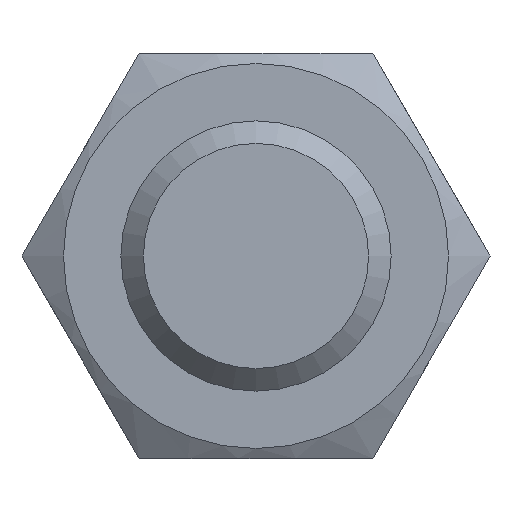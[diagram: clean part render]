
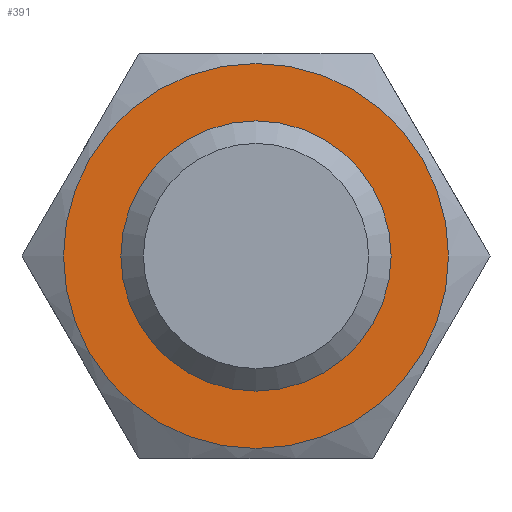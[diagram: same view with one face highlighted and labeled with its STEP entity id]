
A CAD part, left-side view. The second image highlights one B-rep face of the part: STEP entity #391.
In plain terms, the highlighted planar face has unit normal (-1, 0, 0) as drawn and (0, 0, 1) by its records, which use the part's own axes.
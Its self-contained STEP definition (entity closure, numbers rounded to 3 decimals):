
#391=ADVANCED_FACE('',(#702,#704),#706,.T.);
#702=FACE_BOUND('',#703,.T.);
#703=EDGE_LOOP('',(#909));
#704=FACE_BOUND('',#705,.T.);
#705=EDGE_LOOP('',(#910));
#706=PLANE('',#707);
#707=AXIS2_PLACEMENT_3D('',#708,#709,#710);
#708=CARTESIAN_POINT('',(0.,0.,21.5));
#709=DIRECTION('',(0.,0.,1.));
#710=DIRECTION('',(1.,0.,0.));
#909=ORIENTED_EDGE('',*,*,#1006,.T.);
#910=ORIENTED_EDGE('',*,*,#1007,.T.);
#1006=EDGE_CURVE('',#1166,#1166,#1167,.F.);
#1007=EDGE_CURVE('',#1168,#1168,#1169,.F.);
#1166=VERTEX_POINT('',#2567);
#1167=CIRCLE('',#2568,17.1);
#1168=VERTEX_POINT('',#2572);
#1169=CIRCLE('',#2573,12.);
#2567=CARTESIAN_POINT('',(0.,17.1,21.5));
#2568=AXIS2_PLACEMENT_3D('',#2569,#2570,#2571);
#2569=CARTESIAN_POINT('',(0.,0.,21.5));
#2570=DIRECTION('',(0.,0.,-1.));
#2571=DIRECTION('',(0.,1.,0.));
#2572=CARTESIAN_POINT('',(12.,0.,21.5));
#2573=AXIS2_PLACEMENT_3D('',#2574,#2575,#2576);
#2574=CARTESIAN_POINT('',(0.,0.,21.5));
#2575=DIRECTION('',(0.,0.,1.));
#2576=DIRECTION('',(1.,0.,0.));
